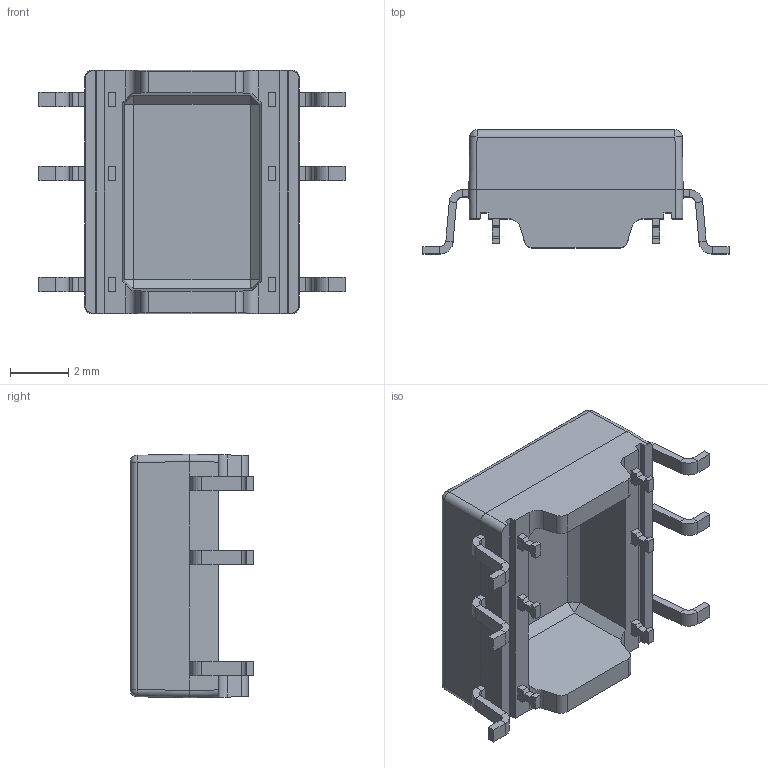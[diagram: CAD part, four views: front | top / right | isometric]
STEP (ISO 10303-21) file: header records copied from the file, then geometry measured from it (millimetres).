
FILE_DESCRIPTION (( 'STEP AP203' ), '1' );
FILE_NAME ('S066xx.STEP', '2025-07-02T09:55:30', ( '' ), ( '' ), 'SwSTEP 2.0', 'SolidWorks 2022', '' );
FILE_SCHEMA (( 'CONFIG_CONTROL_DESIGN' ));
Length unit declared in the file: millimetre
Products named in the file (3): S066xx Case; S066xx Pin; S066xx
Assembly tree (7 placements, depth 2):
  S066xx
    S066xx Case
    S066xx Pin  x6
Bounding box: 10.5 x 4.25 x 8.35 mm (x, y, z)
Volume: 117.4 mm3; surface area: 348.2 mm2
Topology: 7 solids, 7 shells, 345 faces, 820 edges, 484 vertices
Faces by surface type: plane 271, cylinder 70, sphere 4
Entity records: 5071 total; most frequent: CARTESIAN_POINT 893, ORIENTED_EDGE 800, DIRECTION 754, EDGE_CURVE 400, LINE 320, VECTOR 320, VERTEX_POINT 244, AXIS2_PLACEMENT_3D 217
